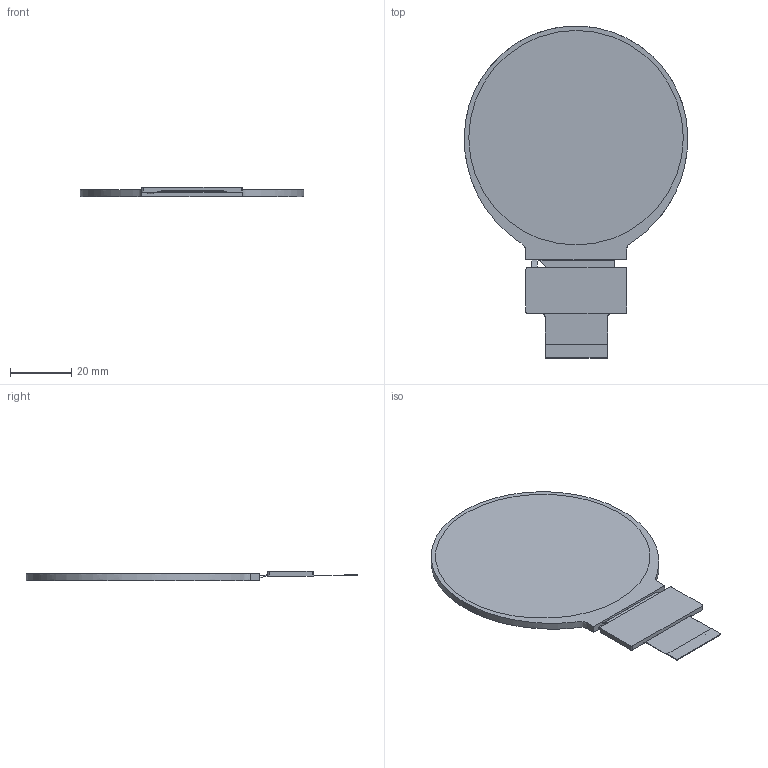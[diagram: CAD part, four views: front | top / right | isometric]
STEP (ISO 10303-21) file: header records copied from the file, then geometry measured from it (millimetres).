
FILE_DESCRIPTION((''),'2;1');
FILE_NAME('TS028WVC02NQ-B8007A-V00-241223_ASM','2026-01-14T10:19:13',('Administrator'),(''),'CREO PARAMETRIC BY PTC INC, 2025102','CREO PARAMETRIC BY PTC INC, 2025102','');
FILE_SCHEMA(('CONFIG_CONTROL_DESIGN'));
Length unit declared in the file: millimetre
Products named in the file (4): LCM_OD-V00-241223; FPC_LCD-V00-241223; FPC_BL-V00-241223; TS028WVC02NQ-B8007A-V00-241223_ASM
Assembly tree (3 placements, depth 2):
  TS028WVC02NQ-B8007A-V00-241223_ASM
    LCM_OD-V00-241223
    FPC_LCD-V00-241223
    FPC_BL-V00-241223
Bounding box: 73.01 x 108.53 x 3.17 mm (x, y, z)
Volume: 11205.5 mm3; surface area: 11358.8 mm2
Topology: 3 solids, 3 shells, 61 faces, 149 edges, 97 vertices
Faces by surface type: plane 43, cylinder 11, bspline 6, extrusion 1
Entity records: 2281 total; most frequent: CARTESIAN_POINT 764, ORIENTED_EDGE 298, DIRECTION 281, EDGE_CURVE 149, VECTOR 111, LINE 110, VERTEX_POINT 97, AXIS2_PLACEMENT_3D 85
